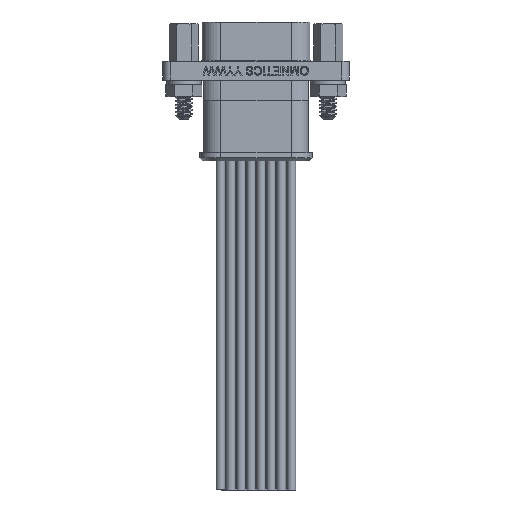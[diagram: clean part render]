
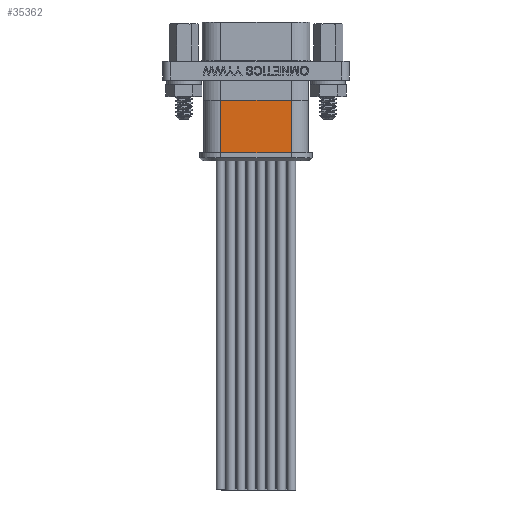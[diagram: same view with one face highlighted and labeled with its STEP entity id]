
A CAD part, front view. The second image highlights one B-rep face of the part: STEP entity #35362.
In plain terms, the highlighted planar face has unit normal (0, -1, 0).
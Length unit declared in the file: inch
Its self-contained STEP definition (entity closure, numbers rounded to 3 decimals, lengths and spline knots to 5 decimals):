
#1290 = EDGE_CURVE ( 'NONE', #22035, #33203, #5834, .T. ) ;
#1309 = AXIS2_PLACEMENT_3D ( 'NONE', #12258, #6079, #28099 ) ;
#2124 = DIRECTION ( 'NONE',  ( 0., 0., 1. ) ) ;
#2729 = LINE ( 'NONE', #37728, #35215 ) ;
#4471 = VECTOR ( 'NONE', #2124, 39.37008 ) ;
#5370 = VECTOR ( 'NONE', #10663, 39.37008 ) ;
#5834 = LINE ( 'NONE', #23281, #22547 ) ;
#6079 = DIRECTION ( 'NONE',  ( 0., 1., 0. ) ) ;
#6110 = EDGE_LOOP ( 'NONE', ( #34810, #11074, #28039, #23080 ) ) ;
#6801 = CARTESIAN_POINT ( 'NONE',  ( 0.1735, -0.104, -0.413 ) ) ;
#7185 = CARTESIAN_POINT ( 'NONE',  ( 0.1735, -0.104, -0.153 ) ) ;
#9104 = VERTEX_POINT ( 'NONE', #7185 ) ;
#10663 = DIRECTION ( 'NONE',  ( 0., 0., 1. ) ) ;
#11074 = ORIENTED_EDGE ( 'NONE', *, *, #15786, .F. ) ;
#12258 = CARTESIAN_POINT ( 'NONE',  ( 0.1735, -0.104, -0.413 ) ) ;
#14153 = CARTESIAN_POINT ( 'NONE',  ( -0.1735, -0.104, -0.153 ) ) ;
#14292 = VERTEX_POINT ( 'NONE', #14153 ) ;
#15786 = EDGE_CURVE ( 'NONE', #14292, #9104, #2729, .T. ) ;
#18636 = CARTESIAN_POINT ( 'NONE',  ( -0.1735, -0.104, -0.413 ) ) ;
#21754 = PLANE ( 'NONE',  #1309 ) ;
#22035 = VERTEX_POINT ( 'NONE', #6801 ) ;
#22041 = DIRECTION ( 'NONE',  ( 1., 0., 0. ) ) ;
#22547 = VECTOR ( 'NONE', #33957, 39.37008 ) ;
#23080 = ORIENTED_EDGE ( 'NONE', *, *, #1290, .F. ) ;
#23281 = CARTESIAN_POINT ( 'NONE',  ( 0.1735, -0.104, -0.413 ) ) ;
#24119 = CARTESIAN_POINT ( 'NONE',  ( 0.1735, -0.104, -0.413 ) ) ;
#27247 = FACE_OUTER_BOUND ( 'NONE', #6110, .T. ) ;
#28039 = ORIENTED_EDGE ( 'NONE', *, *, #37885, .F. ) ;
#28099 = DIRECTION ( 'NONE',  ( 0., 0., 1. ) ) ;
#32651 = CARTESIAN_POINT ( 'NONE',  ( -0.1735, -0.104, -0.413 ) ) ;
#33203 = VERTEX_POINT ( 'NONE', #18636 ) ;
#33957 = DIRECTION ( 'NONE',  ( -1., 0., 0. ) ) ;
#34810 = ORIENTED_EDGE ( 'NONE', *, *, #36642, .T. ) ;
#35215 = VECTOR ( 'NONE', #22041, 39.37008 ) ;
#35362 = ADVANCED_FACE ( 'NONE', ( #27247 ), #21754, .F. ) ;
#36642 = EDGE_CURVE ( 'NONE', #22035, #9104, #36939, .T. ) ;
#36939 = LINE ( 'NONE', #24119, #4471 ) ;
#37728 = CARTESIAN_POINT ( 'NONE',  ( -0.1735, -0.104, -0.153 ) ) ;
#37885 = EDGE_CURVE ( 'NONE', #33203, #14292, #38845, .T. ) ;
#38845 = LINE ( 'NONE', #32651, #5370 ) ;
